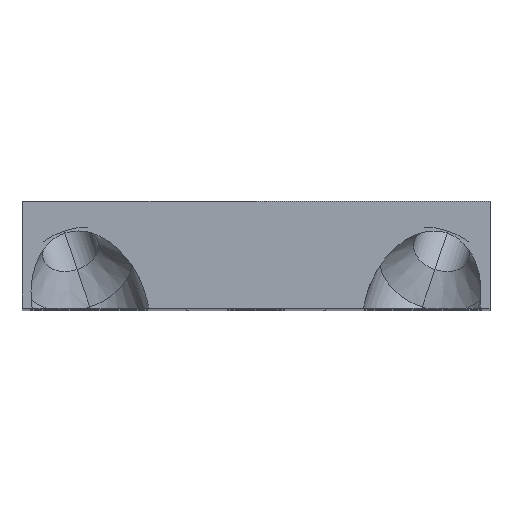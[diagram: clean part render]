
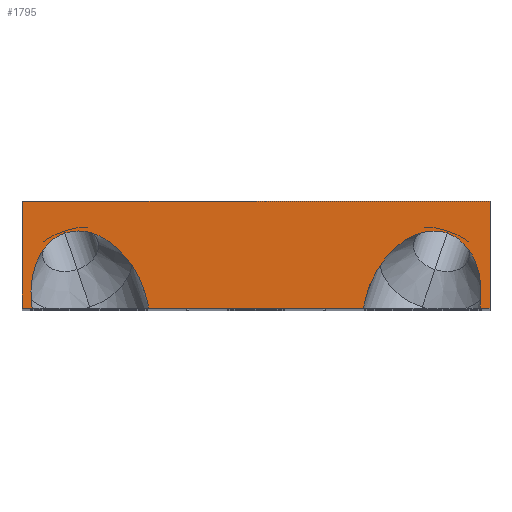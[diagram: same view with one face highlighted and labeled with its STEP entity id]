
A CAD part, top view. The second image highlights one B-rep face of the part: STEP entity #1795.
In plain terms, the highlighted planar face has unit normal (0, 0, 1).
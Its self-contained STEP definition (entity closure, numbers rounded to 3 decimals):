
#1795=ADVANCED_FACE('',(#3190),#3191,.T.);
#3190=FACE_OUTER_BOUND('',#5049,.T.);
#3191=PLANE('',#5050);
#5049=EDGE_LOOP('',(#6810,#6811,#6812,#6813,#6814,#6815,#6816,#6817,#6818,#6819));
#5050=AXIS2_PLACEMENT_3D('',#6820,#6821,#6822);
#6810=ORIENTED_EDGE('',*,*,#8239,.T.);
#6811=ORIENTED_EDGE('',*,*,#8484,.T.);
#6812=ORIENTED_EDGE('',*,*,#8424,.T.);
#6813=ORIENTED_EDGE('',*,*,#8502,.T.);
#6814=ORIENTED_EDGE('',*,*,#8503,.T.);
#6815=ORIENTED_EDGE('',*,*,#8504,.T.);
#6816=ORIENTED_EDGE('',*,*,#8429,.T.);
#6817=ORIENTED_EDGE('',*,*,#8221,.T.);
#6818=ORIENTED_EDGE('',*,*,#8494,.T.);
#6819=ORIENTED_EDGE('',*,*,#8427,.T.);
#6820=CARTESIAN_POINT('',(0.0,4.0,0.0));
#6821=DIRECTION('',(0.0,0.0,1.0));
#6822=DIRECTION('',(-1.0,0.0,0.0));
#8221=EDGE_CURVE('',#9601,#9599,#9602,.T.);
#8239=EDGE_CURVE('',#9629,#9627,#9630,.T.);
#8424=EDGE_CURVE('',#9907,#9905,#9908,.T.);
#8427=EDGE_CURVE('',#9912,#9629,#9913,.T.);
#8429=EDGE_CURVE('',#9915,#9601,#9916,.T.);
#8484=EDGE_CURVE('',#9627,#9907,#9990,.T.);
#8494=EDGE_CURVE('',#9599,#9912,#10001,.T.);
#8502=EDGE_CURVE('',#9905,#10011,#10012,.T.);
#8503=EDGE_CURVE('',#10011,#10013,#10014,.T.);
#8504=EDGE_CURVE('',#10013,#9915,#10015,.T.);
#9599=VERTEX_POINT('',#10563);
#9601=VERTEX_POINT('',#10566);
#9602=ELLIPSE('',#10567,6.022,4.25);
#9627=VERTEX_POINT('',#10597);
#9629=VERTEX_POINT('',#10600);
#9630=ELLIPSE('',#10601,6.022,4.25);
#9905=VERTEX_POINT('',#10958);
#9907=VERTEX_POINT('',#10961);
#9908=LINE('',#10962,#10963);
#9912=VERTEX_POINT('',#10976);
#9913=LINE('',#10977,#10978);
#9915=VERTEX_POINT('',#10980);
#9916=LINE('',#10981,#10982);
#9990=ELLIPSE('',#11083,6.022,4.25);
#10001=ELLIPSE('',#11103,6.022,4.25);
#10011=VERTEX_POINT('',#11149);
#10012=LINE('',#11150,#11151);
#10013=VERTEX_POINT('',#11152);
#10014=LINE('',#11153,#11154);
#10015=LINE('',#11155,#11156);
#10563=CARTESIAN_POINT('',(-14.294,5.611,0.0));
#10566=CARTESIAN_POINT('',(-16.746,0.,0.0));
#10567=AXIS2_PLACEMENT_3D('',#11529,#11530,#11531);
#10597=CARTESIAN_POINT('',(14.294,5.611,0.0));
#10600=CARTESIAN_POINT('',(8.02,0.,0.0));
#10601=AXIS2_PLACEMENT_3D('',#11559,#11560,#11561);
#10958=CARTESIAN_POINT('',(17.5,0.0,0.0));
#10961=CARTESIAN_POINT('',(16.746,0.,0.0));
#10962=CARTESIAN_POINT('',(-17.5,0.0,0.0));
#10963=VECTOR('',#11810,10.0);
#10976=CARTESIAN_POINT('',(-8.02,0.,0.0));
#10977=CARTESIAN_POINT('',(-17.5,0.0,0.0));
#10978=VECTOR('',#11814,10.0);
#10980=CARTESIAN_POINT('',(-17.5,0.0,0.0));
#10981=CARTESIAN_POINT('',(-17.5,0.0,0.0));
#10982=VECTOR('',#11818,10.0);
#11083=AXIS2_PLACEMENT_3D('',#11873,#11874,#11875);
#11103=AXIS2_PLACEMENT_3D('',#11888,#11889,#11890);
#11149=CARTESIAN_POINT('',(17.5,8.0,0.0));
#11150=CARTESIAN_POINT('',(17.5,0.0,0.0));
#11151=VECTOR('',#11897,10.0);
#11152=CARTESIAN_POINT('',(-17.5,8.0,0.0));
#11153=CARTESIAN_POINT('',(17.5,8.0,0.0));
#11154=VECTOR('',#11898,10.0);
#11155=CARTESIAN_POINT('',(-17.5,8.0,0.0));
#11156=VECTOR('',#11899,10.0);
#11529=CARTESIAN_POINT('',(-12.368,-0.095,0.0));
#11530=DIRECTION('',(0.0,0.0,-1.0));
#11531=DIRECTION('',(-0.32,0.947,0.0));
#11559=CARTESIAN_POINT('',(12.368,-0.095,0.0));
#11560=DIRECTION('',(0.0,0.0,-1.0));
#11561=DIRECTION('',(0.32,0.947,0.0));
#11810=DIRECTION('',(1.0,0.0,0.0));
#11814=DIRECTION('',(1.0,0.0,0.0));
#11818=DIRECTION('',(1.0,0.0,0.0));
#11873=CARTESIAN_POINT('',(12.368,-0.095,0.0));
#11874=DIRECTION('',(0.0,0.0,-1.0));
#11875=DIRECTION('',(0.32,0.947,0.0));
#11888=CARTESIAN_POINT('',(-12.368,-0.095,0.0));
#11889=DIRECTION('',(0.0,0.0,-1.0));
#11890=DIRECTION('',(-0.32,0.947,0.0));
#11897=DIRECTION('',(0.0,1.0,0.0));
#11898=DIRECTION('',(-1.0,0.0,0.0));
#11899=DIRECTION('',(0.0,-1.0,0.0));
